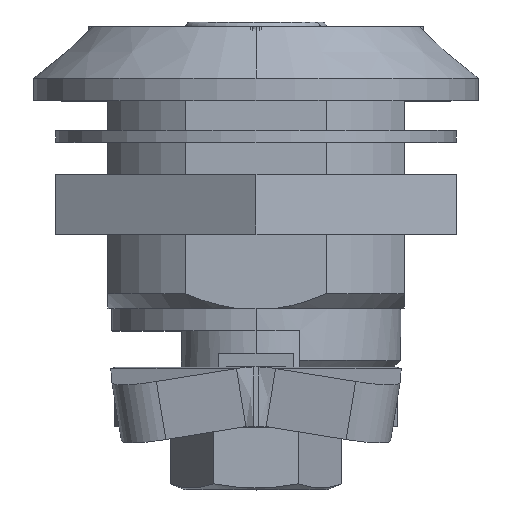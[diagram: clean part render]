
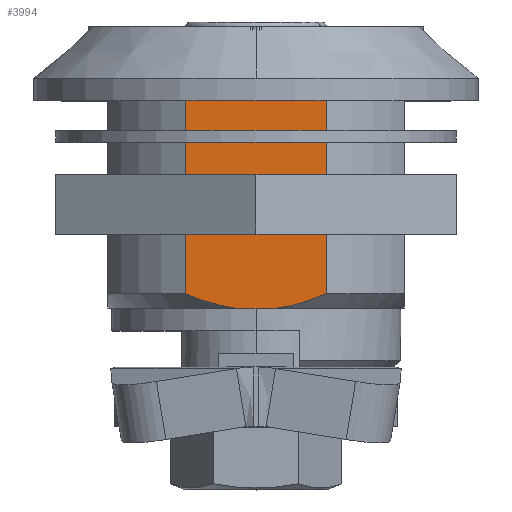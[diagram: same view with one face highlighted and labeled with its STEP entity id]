
A CAD part, top view. The second image highlights one B-rep face of the part: STEP entity #3994.
In plain terms, the highlighted planar face has unit normal (0, 0, 1) as drawn and (0, 1, 0) by its records, which use the part's own axes.
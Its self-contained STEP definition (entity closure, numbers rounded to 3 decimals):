
#408 = CARTESIAN_POINT ( 'NONE',  ( -4.762, 10., 4.2 ) ) ;
#409 = DIRECTION ( 'NONE',  ( 0., 0., -1. ) ) ;
#410 = VECTOR ( 'NONE', #409, 1000. ) ;
#411 = CARTESIAN_POINT ( 'NONE',  ( -4.762, 10., 30.425 ) ) ;
#412 = LINE ( 'NONE', #411, #410 ) ;
#414 = CARTESIAN_POINT ( 'NONE',  ( -4.762, 10., 17.2 ) ) ;
#419 = CARTESIAN_POINT ( 'NONE',  ( 1.293, 10., 18.2 ) ) ;
#430 = CARTESIAN_POINT ( 'NONE',  ( 4.762, 10., 17.2 ) ) ;
#481 = DIRECTION ( 'NONE',  ( 0., 0., 1. ) ) ;
#482 = VECTOR ( 'NONE', #481, 1000. ) ;
#483 = CARTESIAN_POINT ( 'NONE',  ( 4.762, 10., 30.425 ) ) ;
#484 = LINE ( 'NONE', #483, #482 ) ;
#485 = CARTESIAN_POINT ( 'NONE',  ( 4.762, 10., 4.2 ) ) ;
#523 = CARTESIAN_POINT ( 'NONE',  ( 1.293, 10., 18.2 ) ) ;
#524 = CARTESIAN_POINT ( 'NONE',  ( 1.891, 10., 18.123 ) ) ;
#525 = CARTESIAN_POINT ( 'NONE',  ( 2.489, 10., 17.991 ) ) ;
#526 = CARTESIAN_POINT ( 'NONE',  ( 3.645, 10., 17.65 ) ) ;
#527 = CARTESIAN_POINT ( 'NONE',  ( 4.209, 10., 17.439 ) ) ;
#528 = CARTESIAN_POINT ( 'NONE',  ( 4.762, 10., 17.2 ) ) ;
#543 = B_SPLINE_CURVE_WITH_KNOTS ( 'NONE', 3,
 ( #528, #527, #526, #525, #524, #523 ),
 .UNSPECIFIED., .F., .F.,
 ( 4, 2, 4 ),
 ( 0.02, 0.022, 0.024 ),
 .UNSPECIFIED. ) ;
#545 = DIRECTION ( 'NONE',  ( -1., 0., 0. ) ) ;
#546 = VECTOR ( 'NONE', #545, 1000. ) ;
#547 = CARTESIAN_POINT ( 'NONE',  ( 0., 10., 18.2 ) ) ;
#548 = LINE ( 'NONE', #547, #546 ) ;
#563 = CARTESIAN_POINT ( 'NONE',  ( -4.762, 10., 17.2 ) ) ;
#564 = CARTESIAN_POINT ( 'NONE',  ( -4.207, 10., 17.44 ) ) ;
#565 = CARTESIAN_POINT ( 'NONE',  ( -3.643, 10., 17.65 ) ) ;
#566 = CARTESIAN_POINT ( 'NONE',  ( -2.489, 10., 17.991 ) ) ;
#567 = CARTESIAN_POINT ( 'NONE',  ( -1.898, 10., 18.122 ) ) ;
#568 = CARTESIAN_POINT ( 'NONE',  ( -1.293, 10., 18.2 ) ) ;
#570 = B_SPLINE_CURVE_WITH_KNOTS ( 'NONE', 3,
 ( #568, #567, #566, #565, #564, #563 ),
 .UNSPECIFIED., .F., .F.,
 ( 4, 2, 4 ),
 ( 0.026, 0.028, 0.03 ),
 .UNSPECIFIED. ) ;
#571 = CARTESIAN_POINT ( 'NONE',  ( -1.293, 10., 18.2 ) ) ;
#580 = DIRECTION ( 'NONE',  ( 1., 0., 0. ) ) ;
#581 = VECTOR ( 'NONE', #580, 1000. ) ;
#582 = CARTESIAN_POINT ( 'NONE',  ( -10., 10., 4.2 ) ) ;
#583 = LINE ( 'NONE', #582, #581 ) ;
#671 = FACE_OUTER_BOUND ( 'NONE', #3995, .T. ) ;
#721 = DIRECTION ( 'NONE',  ( 0., 0., 1. ) ) ;
#722 = DIRECTION ( 'NONE',  ( 0., 1., 0. ) ) ;
#723 = CARTESIAN_POINT ( 'NONE',  ( -10., 10., -38.651 ) ) ;
#724 = AXIS2_PLACEMENT_3D ( 'NONE', #723, #722, #721 ) ;
#725 = PLANE ( 'NONE',  #724 ) ;
#3856 = VERTEX_POINT ( 'NONE', #419 ) ;
#3857 = VERTEX_POINT ( 'NONE', #414 ) ;
#3860 = EDGE_CURVE ( 'NONE', #3857, #3861, #412, .T. ) ;
#3861 = VERTEX_POINT ( 'NONE', #408 ) ;
#3874 = VERTEX_POINT ( 'NONE', #430 ) ;
#3880 = VERTEX_POINT ( 'NONE', #485 ) ;
#3882 = EDGE_CURVE ( 'NONE', #3880, #3874, #484, .T. ) ;
#3911 = EDGE_CURVE ( 'NONE', #3856, #3923, #548, .T. ) ;
#3918 = EDGE_CURVE ( 'NONE', #3874, #3856, #543, .T. ) ;
#3923 = VERTEX_POINT ( 'NONE', #571 ) ;
#3925 = EDGE_CURVE ( 'NONE', #3923, #3857, #570, .T. ) ;
#3940 = EDGE_CURVE ( 'NONE', #3861, #3880, #583, .T. ) ;
#3994 = ADVANCED_FACE ( 'NONE', ( #671 ), #725, .T. ) ;
#3995 = EDGE_LOOP ( 'NONE', ( #3996, #3997, #3998, #4055, #4056, #4057 ) ) ;
#3996 = ORIENTED_EDGE ( 'NONE', *, *, #3925, .F. ) ;
#3997 = ORIENTED_EDGE ( 'NONE', *, *, #3911, .F. ) ;
#3998 = ORIENTED_EDGE ( 'NONE', *, *, #3918, .F. ) ;
#4055 = ORIENTED_EDGE ( 'NONE', *, *, #3882, .F. ) ;
#4056 = ORIENTED_EDGE ( 'NONE', *, *, #3940, .F. ) ;
#4057 = ORIENTED_EDGE ( 'NONE', *, *, #3860, .F. ) ;
